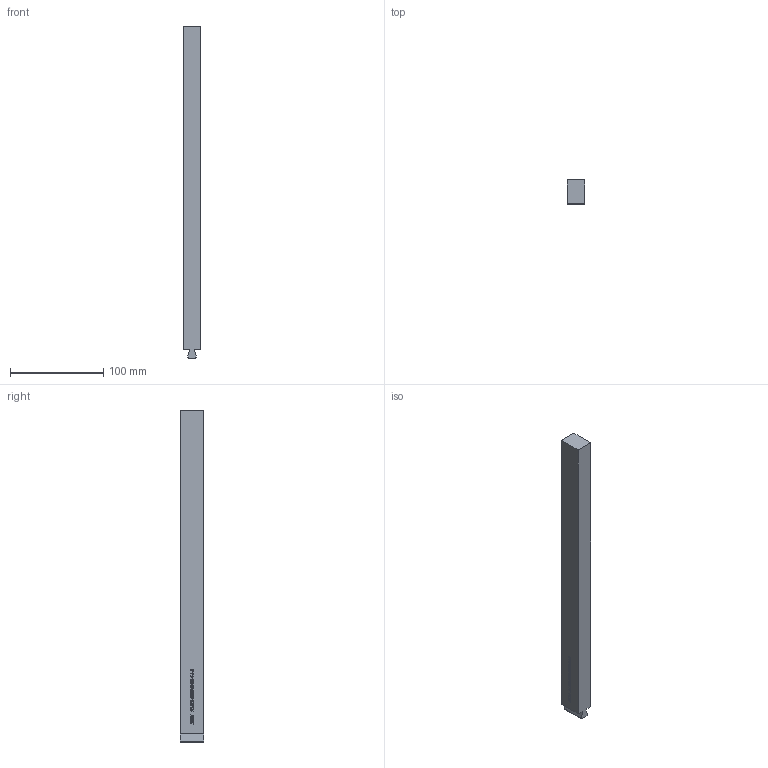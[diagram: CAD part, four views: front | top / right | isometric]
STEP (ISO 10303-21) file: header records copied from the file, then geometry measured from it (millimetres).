
FILE_DESCRIPTION (( 'STEP AP203' ), '1' );
FILE_NAME ('ALBD-1000-0750-14-5.STEP', '2021-01-11T21:10:50', ( '' ), ( '' ), 'SwSTEP 2.0', 'SolidWorks 2020', '' );
FILE_SCHEMA (( 'CONFIG_CONTROL_DESIGN' ));
Length unit declared in the file: inch
Products named in the file (1): ALBD-1000-0750-14-5
Bounding box: 19.05 x 25.4 x 355.6 mm (x, y, z)
Volume: 169230.9 mm3; surface area: 32476.7 mm2
Topology: 1 solids, 1 shells, 204 faces, 507 edges, 338 vertices
Faces by surface type: plane 155, bspline 49
Entity records: 7664 total; most frequent: CARTESIAN_POINT 3047, ORIENTED_EDGE 1014, DIRECTION 721, EDGE_CURVE 507, LINE 409, VECTOR 409, VERTEX_POINT 338, EDGE_LOOP 237
